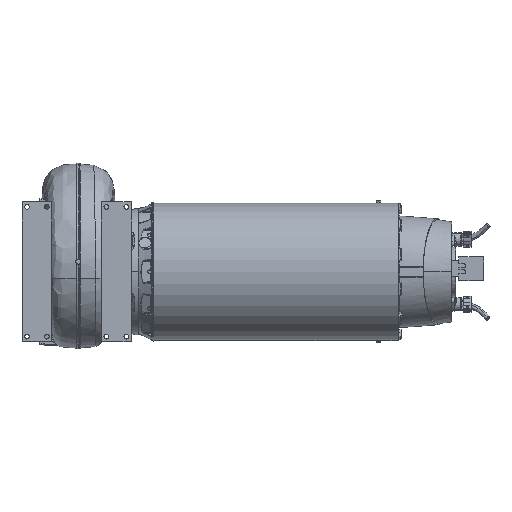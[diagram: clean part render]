
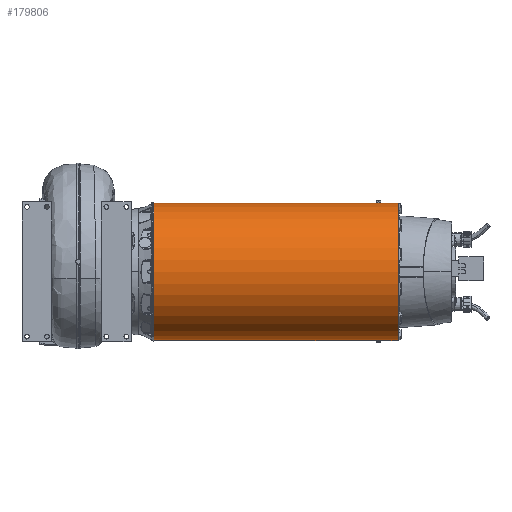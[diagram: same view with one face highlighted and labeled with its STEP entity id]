
A CAD part, front view. The second image highlights one B-rep face of the part: STEP entity #179806.
In plain terms, the highlighted cylindrical face has radius 344 mm (diameter 688 mm), a partial arc.
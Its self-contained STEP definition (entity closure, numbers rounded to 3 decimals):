
#1846 = CARTESIAN_POINT ( 'NONE',  ( 0., 0., 344. ) ) ;
#3305 = LINE ( 'NONE', #124010, #51045 ) ;
#5608 = CARTESIAN_POINT ( 'NONE',  ( 1099.515, -9.5, 343.869 ) ) ;
#14436 = CARTESIAN_POINT ( 'NONE',  ( 1097.687, -6.334, 343.956 ) ) ;
#17885 = CARTESIAN_POINT ( 'NONE',  ( 1095.859, -3.167, -344. ) ) ;
#19265 = DIRECTION ( 'NONE',  ( -1., 0., 0. ) ) ;
#20703 = VECTOR ( 'NONE', #19265, 1000. ) ;
#24506 =( BOUNDED_CURVE ( )  B_SPLINE_CURVE ( 3, ( #84398, #192067, #174046, #210017 ),
 .UNSPECIFIED., .F., .F. ) 
 B_SPLINE_CURVE_WITH_KNOTS ( ( 4, 4 ),
 ( 1.571, 1.598 ),
 .UNSPECIFIED. ) 
 CURVE ( )  GEOMETRIC_REPRESENTATION_ITEM ( )  RATIONAL_B_SPLINE_CURVE ( ( 1., 1., 1., 1. ) ) 
 REPRESENTATION_ITEM ( '' )  );
#24541 = AXIS2_PLACEMENT_3D ( 'NONE', #101008, #226400, #119106 ) ;
#29732 = ORIENTED_EDGE ( 'NONE', *, *, #33948, .T. ) ;
#30850 = EDGE_CURVE ( 'NONE', #137943, #103676, #64864, .T. ) ;
#31172 = EDGE_CURVE ( 'NONE', #103676, #164784, #70244, .T. ) ;
#32441 = CARTESIAN_POINT ( 'NONE',  ( 1094.03, 0., 344. ) ) ;
#33185 = CIRCLE ( 'NONE', #59514, 344. ) ;
#33564 = EDGE_CURVE ( 'NONE', #164784, #43198, #63367, .T. ) ;
#33948 = EDGE_CURVE ( 'NONE', #43198, #166519, #68551, .T. ) ;
#34283 = EDGE_CURVE ( 'NONE', #166519, #142486, #144231, .T. ) ;
#36271 = CARTESIAN_POINT ( 'NONE',  ( 1110.485, -9.5, 343.869 ) ) ;
#36327 = DIRECTION ( 'NONE',  ( -1., 0., 0. ) ) ;
#37500 = CARTESIAN_POINT ( 'NONE',  ( 1112.313, -6.334, 343.956 ) ) ;
#37638 = EDGE_CURVE ( 'NONE', #142486, #203365, #196730, .T. ) ;
#38062 = EDGE_CURVE ( 'NONE', #126815, #203365, #33185, .T. ) ;
#38364 = EDGE_CURVE ( 'NONE', #79411, #126815, #193384, .T. ) ;
#42129 = EDGE_CURVE ( 'NONE', #85240, #79411, #75671, .T. ) ;
#42527 = EDGE_CURVE ( 'NONE', #62743, #85240, #3305, .T. ) ;
#42869 = EDGE_CURVE ( 'NONE', #169906, #62743, #24506, .T. ) ;
#43198 = VERTEX_POINT ( 'NONE', #36271 ) ;
#45212 = EDGE_CURVE ( 'NONE', #137943, #169906, #135796, .T. ) ;
#51045 = VECTOR ( 'NONE', #231253, 1000. ) ;
#53237 = VECTOR ( 'NONE', #163867, 1000. ) ;
#54625 = CARTESIAN_POINT ( 'NONE',  ( 1345.349, -9.5, 343.869 ) ) ;
#55979 = DIRECTION ( 'NONE',  ( -1., 0., 0. ) ) ;
#59202 = CARTESIAN_POINT ( 'NONE',  ( 0., 0., -344. ) ) ;
#59514 = AXIS2_PLACEMENT_3D ( 'NONE', #105441, #230846, #123593 ) ;
#62743 = VERTEX_POINT ( 'NONE', #121630 ) ;
#63367 =( BOUNDED_CURVE ( )  B_SPLINE_CURVE ( 3, ( #127267, #145349, #37500, #163421 ),
 .UNSPECIFIED., .F., .F. ) 
 B_SPLINE_CURVE_WITH_KNOTS ( ( 4, 4 ),
 ( 1.571, 1.598 ),
 .UNSPECIFIED. ) 
 CURVE ( )  GEOMETRIC_REPRESENTATION_ITEM ( )  RATIONAL_B_SPLINE_CURVE ( ( 1., 1., 1., 1. ) ) 
 REPRESENTATION_ITEM ( '' )  );
#64646 = VECTOR ( 'NONE', #36327, 1000. ) ;
#64864 = CIRCLE ( 'NONE', #24541, 344. ) ;
#68551 = LINE ( 'NONE', #54625, #20703 ) ;
#70244 = LINE ( 'NONE', #197483, #64646 ) ;
#75671 =( BOUNDED_CURVE ( )  B_SPLINE_CURVE ( 3, ( #107575, #215045, #17885, #143806 ),
 .UNSPECIFIED., .F., .T. ) 
 B_SPLINE_CURVE_WITH_KNOTS ( ( 4, 4 ),
 ( 1.543, 1.571 ),
 .UNSPECIFIED. ) 
 CURVE ( )  GEOMETRIC_REPRESENTATION_ITEM ( )  RATIONAL_B_SPLINE_CURVE ( ( 1., 1., 1., 1. ) ) 
 REPRESENTATION_ITEM ( '' )  );
#78071 = DIRECTION ( 'NONE',  ( -1., 0., 0. ) ) ;
#79411 = VERTEX_POINT ( 'NONE', #135517 ) ;
#80712 = CARTESIAN_POINT ( 'NONE',  ( 1205., 0., -344. ) ) ;
#84398 = CARTESIAN_POINT ( 'NONE',  ( 1115.97, 0., -344. ) ) ;
#85240 = VERTEX_POINT ( 'NONE', #150102 ) ;
#86534 = CARTESIAN_POINT ( 'NONE',  ( 1115.97, 0., -344. ) ) ;
#92272 = CARTESIAN_POINT ( 'NONE',  ( 1205., 0., 344. ) ) ;
#93357 = CYLINDRICAL_SURFACE ( 'NONE', #187177, 344. ) ;
#96335 = CARTESIAN_POINT ( 'NONE',  ( 1115.97, 0., 344. ) ) ;
#97047 = ORIENTED_EDGE ( 'NONE', *, *, #30850, .T. ) ;
#101008 = CARTESIAN_POINT ( 'NONE',  ( 1205., 0., 0. ) ) ;
#102161 = ORIENTED_EDGE ( 'NONE', *, *, #45212, .F. ) ;
#103676 = VERTEX_POINT ( 'NONE', #92272 ) ;
#104072 = CARTESIAN_POINT ( 'NONE',  ( 1095.859, -3.167, 344. ) ) ;
#105441 = CARTESIAN_POINT ( 'NONE',  ( -20., 0., 0. ) ) ;
#107575 = CARTESIAN_POINT ( 'NONE',  ( 1099.515, -9.5, -343.869 ) ) ;
#110875 = ORIENTED_EDGE ( 'NONE', *, *, #42527, .F. ) ;
#114352 = ORIENTED_EDGE ( 'NONE', *, *, #42129, .F. ) ;
#117284 = CARTESIAN_POINT ( 'NONE',  ( -20., 0., -344. ) ) ;
#119106 = DIRECTION ( 'NONE',  ( 0., 0., -1. ) ) ;
#120286 = CARTESIAN_POINT ( 'NONE',  ( 0., 0., -344. ) ) ;
#121630 = CARTESIAN_POINT ( 'NONE',  ( 1110.485, -9.5, -343.869 ) ) ;
#123593 = DIRECTION ( 'NONE',  ( 0., -1., 0. ) ) ;
#123768 = ORIENTED_EDGE ( 'NONE', *, *, #38364, .F. ) ;
#124010 = CARTESIAN_POINT ( 'NONE',  ( 1345.349, -9.5, -343.869 ) ) ;
#126102 = ORIENTED_EDGE ( 'NONE', *, *, #34283, .T. ) ;
#126815 = VERTEX_POINT ( 'NONE', #117284 ) ;
#127267 = CARTESIAN_POINT ( 'NONE',  ( 1115.97, 0., 344. ) ) ;
#127696 = CARTESIAN_POINT ( 'NONE',  ( 0., 0., 0. ) ) ;
#130563 = DIRECTION ( 'NONE',  ( -1., 0., 0. ) ) ;
#135517 = CARTESIAN_POINT ( 'NONE',  ( 1094.03, 0., -344. ) ) ;
#135796 = LINE ( 'NONE', #59202, #225401 ) ;
#137943 = VERTEX_POINT ( 'NONE', #80712 ) ;
#139876 = ORIENTED_EDGE ( 'NONE', *, *, #31172, .T. ) ;
#140305 = CARTESIAN_POINT ( 'NONE',  ( 1099.515, -9.5, 343.869 ) ) ;
#142486 = VERTEX_POINT ( 'NONE', #194958 ) ;
#143806 = CARTESIAN_POINT ( 'NONE',  ( 1094.03, 0., -344. ) ) ;
#144231 =( BOUNDED_CURVE ( )  B_SPLINE_CURVE ( 3, ( #140305, #14436, #104072, #32441 ),
 .UNSPECIFIED., .F., .F. ) 
 B_SPLINE_CURVE_WITH_KNOTS ( ( 4, 4 ),
 ( 1.543, 1.571 ),
 .UNSPECIFIED. ) 
 CURVE ( )  GEOMETRIC_REPRESENTATION_ITEM ( )  RATIONAL_B_SPLINE_CURVE ( ( 1., 1., 1., 1. ) ) 
 REPRESENTATION_ITEM ( '' )  );
#145349 = CARTESIAN_POINT ( 'NONE',  ( 1114.141, -3.167, 344. ) ) ;
#145666 = VECTOR ( 'NONE', #130563, 1000. ) ;
#146560 = DIRECTION ( 'NONE',  ( 0., 0., -1. ) ) ;
#150102 = CARTESIAN_POINT ( 'NONE',  ( 1099.515, -9.5, -343.869 ) ) ;
#163421 = CARTESIAN_POINT ( 'NONE',  ( 1110.485, -9.5, 343.869 ) ) ;
#163867 = DIRECTION ( 'NONE',  ( -1., 0., 0. ) ) ;
#164784 = VERTEX_POINT ( 'NONE', #96335 ) ;
#166519 = VERTEX_POINT ( 'NONE', #5608 ) ;
#169906 = VERTEX_POINT ( 'NONE', #86534 ) ;
#174046 = CARTESIAN_POINT ( 'NONE',  ( 1112.313, -6.334, -343.956 ) ) ;
#177912 = ORIENTED_EDGE ( 'NONE', *, *, #37638, .T. ) ;
#179345 = EDGE_LOOP ( 'NONE', ( #97047, #139876, #228989, #29732, #126102, #177912, #179828, #123768, #114352, #110875, #184335, #102161 ) ) ;
#179806 = ADVANCED_FACE ( 'NONE', ( #205796 ), #93357, .T. ) ;
#179828 = ORIENTED_EDGE ( 'NONE', *, *, #38062, .F. ) ;
#184335 = ORIENTED_EDGE ( 'NONE', *, *, #42869, .F. ) ;
#187177 = AXIS2_PLACEMENT_3D ( 'NONE', #127696, #55979, #146560 ) ;
#192067 = CARTESIAN_POINT ( 'NONE',  ( 1114.141, -3.167, -344. ) ) ;
#193384 = LINE ( 'NONE', #120286, #145666 ) ;
#194958 = CARTESIAN_POINT ( 'NONE',  ( 1094.03, 0., 344. ) ) ;
#196730 = LINE ( 'NONE', #1846, #53237 ) ;
#197483 = CARTESIAN_POINT ( 'NONE',  ( 0., 0., 344. ) ) ;
#203365 = VERTEX_POINT ( 'NONE', #226741 ) ;
#205796 = FACE_OUTER_BOUND ( 'NONE', #179345, .T. ) ;
#210017 = CARTESIAN_POINT ( 'NONE',  ( 1110.485, -9.5, -343.869 ) ) ;
#215045 = CARTESIAN_POINT ( 'NONE',  ( 1097.687, -6.334, -343.956 ) ) ;
#225401 = VECTOR ( 'NONE', #78071, 1000. ) ;
#226400 = DIRECTION ( 'NONE',  ( -1., 0., 0. ) ) ;
#226741 = CARTESIAN_POINT ( 'NONE',  ( -20., 0., 344. ) ) ;
#228989 = ORIENTED_EDGE ( 'NONE', *, *, #33564, .T. ) ;
#230846 = DIRECTION ( 'NONE',  ( -1., 0., 0. ) ) ;
#231253 = DIRECTION ( 'NONE',  ( -1., 0., 0. ) ) ;
